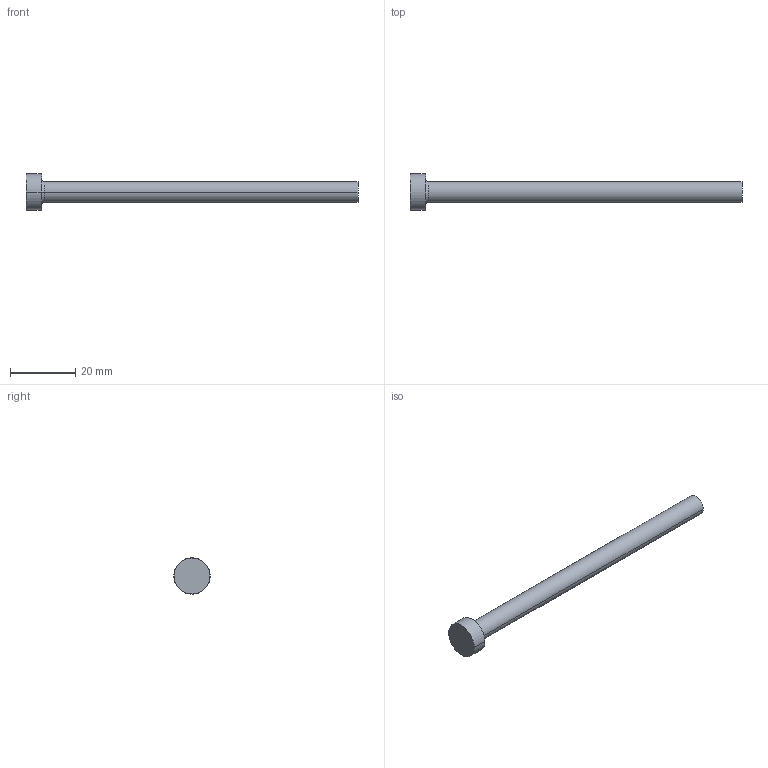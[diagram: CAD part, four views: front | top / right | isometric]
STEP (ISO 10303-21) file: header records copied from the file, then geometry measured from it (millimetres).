
FILE_DESCRIPTION (( 'STEP AP214' ), '1' );
FILE_NAME ('P17-4.STEP', '2020-03-11T18:39:50', ( '' ), ( '' ), 'SwSTEP 2.0', 'SolidWorks 2018', '' );
FILE_SCHEMA (( 'AUTOMOTIVE_DESIGN' ));
Length unit declared in the file: inch
Products named in the file (1): P17-4
Bounding box: 101.6 x 11.11 x 11.11 mm (x, y, z)
Volume: 3523.6 mm3; surface area: 2279.3 mm2
Topology: 1 solids, 1 shells, 13 faces, 24 edges, 14 vertices
Faces by surface type: cone 4, cylinder 4, plane 3, torus 2
Entity records: 366 total; most frequent: DIRECTION 68, CARTESIAN_POINT 52, ORIENTED_EDGE 48, AXIS2_PLACEMENT_3D 30, EDGE_CURVE 24, CIRCLE 16, EDGE_LOOP 14, VERTEX_POINT 14
